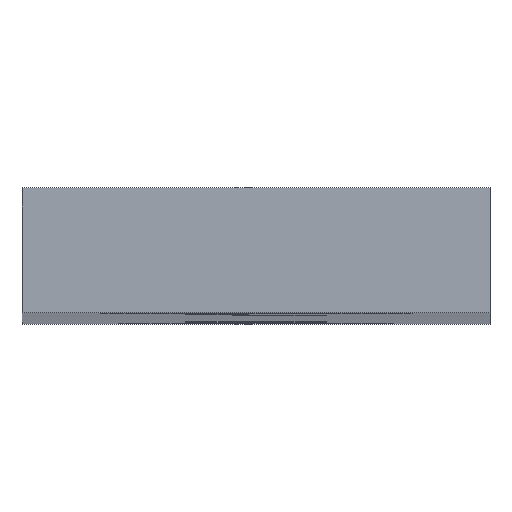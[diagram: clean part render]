
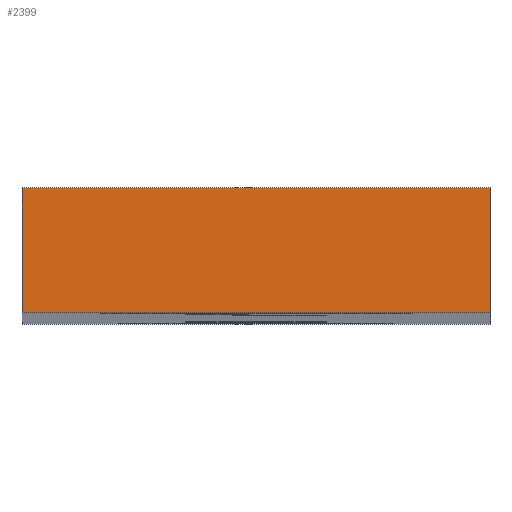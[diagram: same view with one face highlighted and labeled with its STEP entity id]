
A CAD part, top view. The second image highlights one B-rep face of the part: STEP entity #2399.
In plain terms, the highlighted planar face has unit normal (0, 0, 1).
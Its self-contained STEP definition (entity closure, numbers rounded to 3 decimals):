
#24 = VERTEX_POINT('',#25);
#25 = CARTESIAN_POINT('',(-36.85,-7.2,44.));
#32 = PLANE('',#33);
#33 = AXIS2_PLACEMENT_3D('',#34,#35,#36);
#34 = CARTESIAN_POINT('',(-36.85,-7.2,-40.));
#35 = DIRECTION('',(1.,0.,0.));
#36 = DIRECTION('',(0.,0.,1.));
#44 = PLANE('',#45);
#45 = AXIS2_PLACEMENT_3D('',#46,#47,#48);
#46 = CARTESIAN_POINT('',(-36.85,-7.2,-40.));
#47 = DIRECTION('',(0.,1.,0.));
#48 = DIRECTION('',(0.,-0.,1.));
#85 = VERTEX_POINT('',#86);
#86 = CARTESIAN_POINT('',(-36.85,-5.6,44.));
#100 = PLANE('',#101);
#101 = AXIS2_PLACEMENT_3D('',#102,#103,#104);
#102 = CARTESIAN_POINT('',(-36.85,-5.6,-40.));
#103 = DIRECTION('',(0.,1.,0.));
#104 = DIRECTION('',(0.,-0.,1.));
#112 = EDGE_CURVE('',#24,#85,#113,.T.);
#113 = SURFACE_CURVE('',#114,(#118,#125),.PCURVE_S1.);
#114 = LINE('',#115,#116);
#115 = CARTESIAN_POINT('',(-36.85,-7.2,44.));
#116 = VECTOR('',#117,1.);
#117 = DIRECTION('',(0.,1.,0.));
#118 = PCURVE('',#32,#119);
#119 = DEFINITIONAL_REPRESENTATION('',(#120),#124);
#120 = LINE('',#121,#122);
#121 = CARTESIAN_POINT('',(84.,0.));
#122 = VECTOR('',#123,1.);
#123 = DIRECTION('',(0.,-1.));
#124 = ( GEOMETRIC_REPRESENTATION_CONTEXT(2) 
PARAMETRIC_REPRESENTATION_CONTEXT() REPRESENTATION_CONTEXT('2D SPACE',''
  ) );
#125 = PCURVE('',#126,#131);
#126 = PLANE('',#127);
#127 = AXIS2_PLACEMENT_3D('',#128,#129,#130);
#128 = CARTESIAN_POINT('',(-36.85,-7.2,44.));
#129 = DIRECTION('',(0.,0.,1.));
#130 = DIRECTION('',(1.,0.,-0.));
#131 = DEFINITIONAL_REPRESENTATION('',(#132),#136);
#132 = LINE('',#133,#134);
#133 = CARTESIAN_POINT('',(0.,0.));
#134 = VECTOR('',#135,1.);
#135 = DIRECTION('',(0.,1.));
#136 = ( GEOMETRIC_REPRESENTATION_CONTEXT(2) 
PARAMETRIC_REPRESENTATION_CONTEXT() REPRESENTATION_CONTEXT('2D SPACE',''
  ) );
#165 = EDGE_CURVE('',#24,#166,#168,.T.);
#166 = VERTEX_POINT('',#167);
#167 = CARTESIAN_POINT('',(-30.85,-7.2,44.));
#168 = SURFACE_CURVE('',#169,(#173,#180),.PCURVE_S1.);
#169 = LINE('',#170,#171);
#170 = CARTESIAN_POINT('',(-36.85,-7.2,44.));
#171 = VECTOR('',#172,1.);
#172 = DIRECTION('',(1.,0.,0.));
#173 = PCURVE('',#44,#174);
#174 = DEFINITIONAL_REPRESENTATION('',(#175),#179);
#175 = LINE('',#176,#177);
#176 = CARTESIAN_POINT('',(84.,0.));
#177 = VECTOR('',#178,1.);
#178 = DIRECTION('',(0.,1.));
#179 = ( GEOMETRIC_REPRESENTATION_CONTEXT(2) 
PARAMETRIC_REPRESENTATION_CONTEXT() REPRESENTATION_CONTEXT('2D SPACE',''
  ) );
#180 = PCURVE('',#126,#181);
#181 = DEFINITIONAL_REPRESENTATION('',(#182),#186);
#182 = LINE('',#183,#184);
#183 = CARTESIAN_POINT('',(0.,0.));
#184 = VECTOR('',#185,1.);
#185 = DIRECTION('',(1.,0.));
#186 = ( GEOMETRIC_REPRESENTATION_CONTEXT(2) 
PARAMETRIC_REPRESENTATION_CONTEXT() REPRESENTATION_CONTEXT('2D SPACE',''
  ) );
#202 = PLANE('',#203);
#203 = AXIS2_PLACEMENT_3D('',#204,#205,#206);
#204 = CARTESIAN_POINT('',(-30.85,-7.2,-40.));
#205 = DIRECTION('',(1.,0.,0.));
#206 = DIRECTION('',(0.,0.,1.));
#1412 = EDGE_CURVE('',#85,#1413,#1415,.T.);
#1413 = VERTEX_POINT('',#1414);
#1414 = CARTESIAN_POINT('',(-30.85,-5.6,44.));
#1415 = SURFACE_CURVE('',#1416,(#1420,#1427),.PCURVE_S1.);
#1416 = LINE('',#1417,#1418);
#1417 = CARTESIAN_POINT('',(-36.85,-5.6,44.));
#1418 = VECTOR('',#1419,1.);
#1419 = DIRECTION('',(1.,0.,0.));
#1420 = PCURVE('',#100,#1421);
#1421 = DEFINITIONAL_REPRESENTATION('',(#1422),#1426);
#1422 = LINE('',#1423,#1424);
#1423 = CARTESIAN_POINT('',(84.,0.));
#1424 = VECTOR('',#1425,1.);
#1425 = DIRECTION('',(0.,1.));
#1426 = ( GEOMETRIC_REPRESENTATION_CONTEXT(2) 
PARAMETRIC_REPRESENTATION_CONTEXT() REPRESENTATION_CONTEXT('2D SPACE',''
  ) );
#1427 = PCURVE('',#126,#1428);
#1428 = DEFINITIONAL_REPRESENTATION('',(#1429),#1433);
#1429 = LINE('',#1430,#1431);
#1430 = CARTESIAN_POINT('',(0.,1.6));
#1431 = VECTOR('',#1432,1.);
#1432 = DIRECTION('',(1.,0.));
#1433 = ( GEOMETRIC_REPRESENTATION_CONTEXT(2) 
PARAMETRIC_REPRESENTATION_CONTEXT() REPRESENTATION_CONTEXT('2D SPACE',''
  ) );
#2399 = ADVANCED_FACE('',(#2400),#126,.T.);
#2400 = FACE_BOUND('',#2401,.T.);
#2401 = EDGE_LOOP('',(#2402,#2403,#2404,#2425));
#2402 = ORIENTED_EDGE('',*,*,#112,.F.);
#2403 = ORIENTED_EDGE('',*,*,#165,.T.);
#2404 = ORIENTED_EDGE('',*,*,#2405,.T.);
#2405 = EDGE_CURVE('',#166,#1413,#2406,.T.);
#2406 = SURFACE_CURVE('',#2407,(#2411,#2418),.PCURVE_S1.);
#2407 = LINE('',#2408,#2409);
#2408 = CARTESIAN_POINT('',(-30.85,-7.2,44.));
#2409 = VECTOR('',#2410,1.);
#2410 = DIRECTION('',(0.,1.,0.));
#2411 = PCURVE('',#126,#2412);
#2412 = DEFINITIONAL_REPRESENTATION('',(#2413),#2417);
#2413 = LINE('',#2414,#2415);
#2414 = CARTESIAN_POINT('',(6.,0.));
#2415 = VECTOR('',#2416,1.);
#2416 = DIRECTION('',(0.,1.));
#2417 = ( GEOMETRIC_REPRESENTATION_CONTEXT(2) 
PARAMETRIC_REPRESENTATION_CONTEXT() REPRESENTATION_CONTEXT('2D SPACE',''
  ) );
#2418 = PCURVE('',#202,#2419);
#2419 = DEFINITIONAL_REPRESENTATION('',(#2420),#2424);
#2420 = LINE('',#2421,#2422);
#2421 = CARTESIAN_POINT('',(84.,0.));
#2422 = VECTOR('',#2423,1.);
#2423 = DIRECTION('',(0.,-1.));
#2424 = ( GEOMETRIC_REPRESENTATION_CONTEXT(2) 
PARAMETRIC_REPRESENTATION_CONTEXT() REPRESENTATION_CONTEXT('2D SPACE',''
  ) );
#2425 = ORIENTED_EDGE('',*,*,#1412,.F.);
